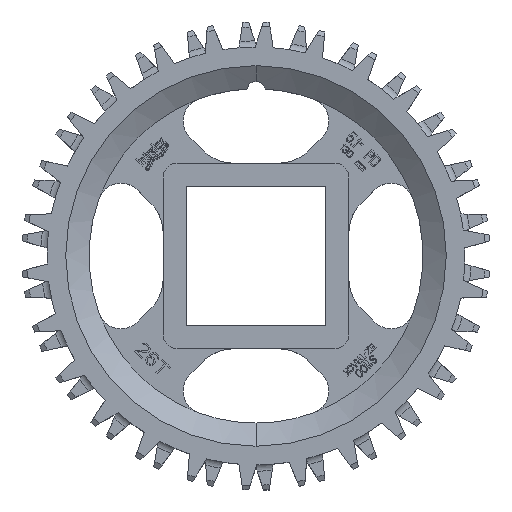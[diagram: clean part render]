
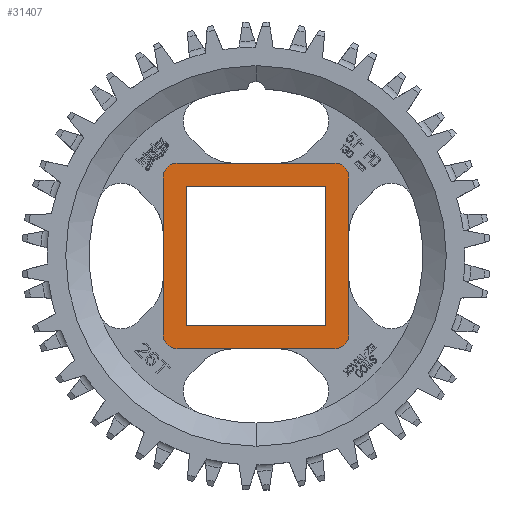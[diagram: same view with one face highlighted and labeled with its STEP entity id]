
A CAD part, top view. The second image highlights one B-rep face of the part: STEP entity #31407.
In plain terms, the highlighted planar face has unit normal (0, 0, 1).
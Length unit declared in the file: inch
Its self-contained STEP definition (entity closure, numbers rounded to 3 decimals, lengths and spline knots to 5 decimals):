
#9771=CARTESIAN_POINT('',(-0.85,-0.85,0.49));
#9772=DIRECTION('',(0.,0.,1.));
#9773=DIRECTION('',(-1.,0.,0.));
#9774=AXIS2_PLACEMENT_3D('',#9771,#9772,#9773);
#9780=DIRECTION('',(-1.,0.,0.));
#9781=VECTOR('',#9780,1.7);
#9782=CARTESIAN_POINT('',(0.85,1.,0.49));
#9783=LINE('',#9782,#9781);
#9784=DIRECTION('',(0.,1.,0.));
#9785=VECTOR('',#9784,1.7);
#9786=CARTESIAN_POINT('',(1.,-0.85,0.49));
#9787=LINE('',#9786,#9785);
#9788=DIRECTION('',(1.,0.,0.));
#9789=VECTOR('',#9788,1.7);
#9790=CARTESIAN_POINT('',(-0.85,-1.,0.49));
#9791=LINE('',#9790,#9789);
#9792=DIRECTION('',(0.,-1.,0.));
#9793=VECTOR('',#9792,1.7);
#9794=CARTESIAN_POINT('',(-1.,0.85,0.49));
#9795=LINE('',#9794,#9793);
#9796=DIRECTION('',(0.,-1.,0.));
#9797=VECTOR('',#9796,1.5);
#9798=CARTESIAN_POINT('',(-0.75,0.75,0.49));
#9799=LINE('',#9798,#9797);
#9800=DIRECTION('',(1.,0.,0.));
#9801=VECTOR('',#9800,1.5);
#9802=CARTESIAN_POINT('',(-0.75,-0.75,0.49));
#9803=LINE('',#9802,#9801);
#9804=DIRECTION('',(0.,1.,0.));
#9805=VECTOR('',#9804,1.5);
#9806=CARTESIAN_POINT('',(0.75,-0.75,0.49));
#9807=LINE('',#9806,#9805);
#9808=DIRECTION('',(-1.,0.,0.));
#9809=VECTOR('',#9808,1.5);
#9810=CARTESIAN_POINT('',(0.75,0.75,0.49));
#9811=LINE('',#9810,#9809);
#9821=CARTESIAN_POINT('',(-0.85,0.85,0.49));
#9822=DIRECTION('',(0.,0.,1.));
#9823=DIRECTION('',(0.,1.,0.));
#9824=AXIS2_PLACEMENT_3D('',#9821,#9822,#9823);
#9839=CARTESIAN_POINT('',(0.85,0.85,0.49));
#9840=DIRECTION('',(0.,0.,1.));
#9841=DIRECTION('',(1.,0.,0.));
#9842=AXIS2_PLACEMENT_3D('',#9839,#9840,#9841);
#9857=CARTESIAN_POINT('',(0.85,-0.85,0.49));
#9858=DIRECTION('',(0.,0.,1.));
#9859=DIRECTION('',(0.,-1.,0.));
#9860=AXIS2_PLACEMENT_3D('',#9857,#9858,#9859);
#22187=CARTESIAN_POINT('',(-0.85,1.,0.49));
#22188=VERTEX_POINT('',#22187);
#22189=CARTESIAN_POINT('',(-1.,0.85,0.49));
#22190=VERTEX_POINT('',#22189);
#22191=CARTESIAN_POINT('',(-0.85,-1.,0.49));
#22192=VERTEX_POINT('',#22191);
#22193=CARTESIAN_POINT('',(-1.,-0.85,0.49));
#22194=VERTEX_POINT('',#22193);
#22195=CARTESIAN_POINT('',(1.,-0.85,0.49));
#22196=VERTEX_POINT('',#22195);
#22197=CARTESIAN_POINT('',(0.85,-1.,0.49));
#22198=VERTEX_POINT('',#22197);
#22203=CARTESIAN_POINT('',(0.85,1.,0.49));
#22204=VERTEX_POINT('',#22203);
#22205=CARTESIAN_POINT('',(1.,0.85,0.49));
#22206=VERTEX_POINT('',#22205);
#22341=CARTESIAN_POINT('',(-0.75,0.75,0.49));
#22342=CARTESIAN_POINT('',(-0.75,-0.75,0.49));
#22343=VERTEX_POINT('',#22341);
#22344=VERTEX_POINT('',#22342);
#22345=CARTESIAN_POINT('',(0.75,-0.75,0.49));
#22346=VERTEX_POINT('',#22345);
#22347=CARTESIAN_POINT('',(0.75,0.75,0.49));
#22348=VERTEX_POINT('',#22347);
#31379=CARTESIAN_POINT('',(0.,0.,0.49));
#31380=DIRECTION('',(0.,0.,1.));
#31381=DIRECTION('',(1.,0.,0.));
#31382=AXIS2_PLACEMENT_3D('',#31379,#31380,#31381);
#31383=PLANE('',#31382);
#31385=ORIENTED_EDGE('',*,*,#31384,.F.);
#31386=ORIENTED_EDGE('',*,*,#31044,.F.);
#31388=ORIENTED_EDGE('',*,*,#31387,.F.);
#31389=ORIENTED_EDGE('',*,*,#31120,.F.);
#31391=ORIENTED_EDGE('',*,*,#31390,.F.);
#31392=ORIENTED_EDGE('',*,*,#31313,.F.);
#31393=ORIENTED_EDGE('',*,*,#31373,.F.);
#31394=ORIENTED_EDGE('',*,*,#30764,.F.);
#31395=EDGE_LOOP('',(#31385,#31386,#31388,#31389,#31391,#31392,#31393,#31394));
#31396=FACE_OUTER_BOUND('',#31395,.F.);
#31398=ORIENTED_EDGE('',*,*,#31397,.T.);
#31400=ORIENTED_EDGE('',*,*,#31399,.T.);
#31402=ORIENTED_EDGE('',*,*,#31401,.T.);
#31404=ORIENTED_EDGE('',*,*,#31403,.T.);
#31405=EDGE_LOOP('',(#31398,#31400,#31402,#31404));
#31406=FACE_BOUND('',#31405,.F.);
#31407=ADVANCED_FACE('',(#31396,#31406),#31383,.T.);
#9775=CIRCLE('',#9774,0.15);
#9825=CIRCLE('',#9824,0.15);
#9843=CIRCLE('',#9842,0.15);
#9861=CIRCLE('',#9860,0.15);
#30764=EDGE_CURVE('',#22190,#22194,#9795,.T.);
#31044=EDGE_CURVE('',#22204,#22188,#9783,.T.);
#31120=EDGE_CURVE('',#22196,#22206,#9787,.T.);
#31313=EDGE_CURVE('',#22192,#22198,#9791,.T.);
#31373=EDGE_CURVE('',#22194,#22192,#9775,.T.);
#31384=EDGE_CURVE('',#22188,#22190,#9825,.T.);
#31387=EDGE_CURVE('',#22206,#22204,#9843,.T.);
#31390=EDGE_CURVE('',#22198,#22196,#9861,.T.);
#31397=EDGE_CURVE('',#22343,#22344,#9799,.T.);
#31399=EDGE_CURVE('',#22344,#22346,#9803,.T.);
#31401=EDGE_CURVE('',#22346,#22348,#9807,.T.);
#31403=EDGE_CURVE('',#22348,#22343,#9811,.T.);
